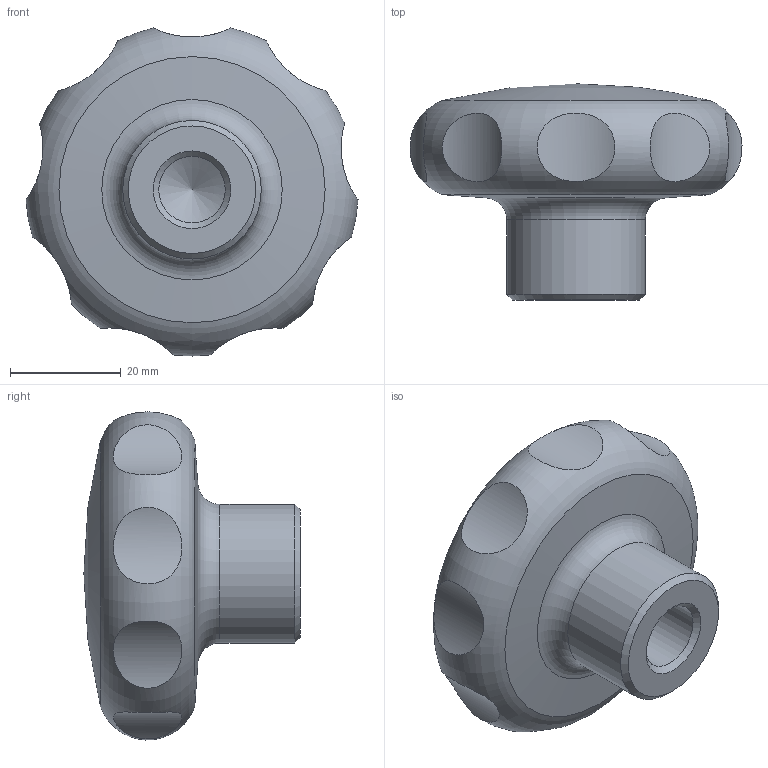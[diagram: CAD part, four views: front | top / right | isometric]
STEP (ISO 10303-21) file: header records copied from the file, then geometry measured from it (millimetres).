
FILE_DESCRIPTION( ( 'STEP AP203' ), '1' );
FILE_NAME( 'C:/Temp/Ganter_Step_05_03_2020/data/2_2/gn_5335/gn_5335_ni_c/Stainless steel-Star knob GN 5335-60-B12-C.stp', '2020-03-05T12:10:23', ( 'License CC BY-ND 4.0' ), ( 'CADENAS' ), ' ', 'PARTsolutions', ' ' );
FILE_SCHEMA( ( 'CONFIG_CONTROL_DESIGN' ) );
Length unit declared in the file: millimetre
Products named in the file (1): _Stainless steel-Star knob GN 5335-60-B12-C
Bounding box: 59.88 x 39 x 59.16 mm (x, y, z)
Volume: 51474.9 mm3; surface area: 9655.7 mm2
Topology: 1 solids, 1 shells, 19 faces, 30 edges, 21 vertices
Faces by surface type: cylinder 11, cone 3, torus 2, sphere 2, plane 1
Full cylindrical faces by diameter (mm): 12 x1, 25 x1
Entity records: 1174 total; most frequent: CARTESIAN_POINT 830, DIRECTION 58, EDGE_LOOP 36, ORIENTED_EDGE 36, AXIS2_PLACEMENT_3D 29, FACE_OUTER_BOUND 24, VERTEX_POINT 21, ADVANCED_FACE 19
